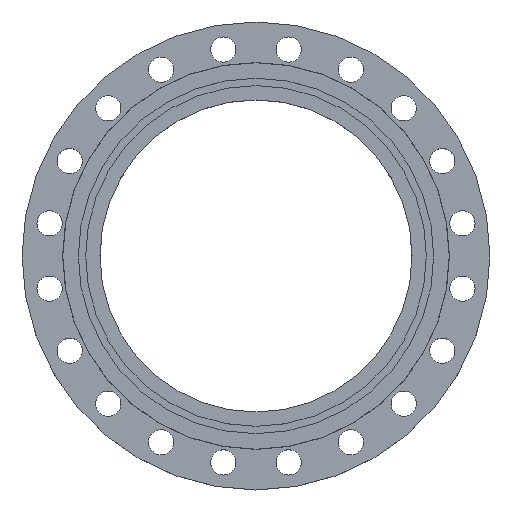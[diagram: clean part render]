
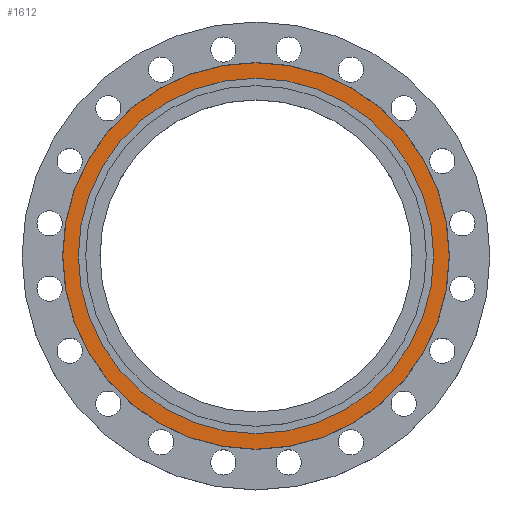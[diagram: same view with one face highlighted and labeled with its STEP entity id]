
A CAD part, top view. The second image highlights one B-rep face of the part: STEP entity #1612.
In plain terms, the highlighted planar face has unit normal (0, 0, 1).
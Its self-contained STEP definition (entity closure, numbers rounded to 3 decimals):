
#51 = AXIS2_PLACEMENT_3D ( 'NONE', #592, #591, #590 ) ;
#53 = CIRCLE ( 'NONE', #56, 367.5 ) ;
#56 = AXIS2_PLACEMENT_3D ( 'NONE', #588, #587, #586 ) ;
#68 = CARTESIAN_POINT ( 'NONE',  ( -367.5, 0., 0. ) ) ;
#82 = CARTESIAN_POINT ( 'NONE',  ( 367.5, 0., 0. ) ) ;
#138 = DIRECTION ( 'NONE',  ( -1., 0., 0. ) ) ;
#139 = DIRECTION ( 'NONE',  ( 0., 0., -1. ) ) ;
#140 = CARTESIAN_POINT ( 'NONE',  ( 0., 0., 0. ) ) ;
#149 = PLANE ( 'NONE',  #1849 ) ;
#150 = FACE_BOUND ( 'NONE', #1910, .T. ) ;
#152 = FACE_OUTER_BOUND ( 'NONE', #1837, .T. ) ;
#241 = CARTESIAN_POINT ( 'NONE',  ( -338., 0., 0. ) ) ;
#383 = CIRCLE ( 'NONE', #51, 338. ) ;
#552 = EDGE_CURVE ( 'NONE', #1727, #1958, #850, .T. ) ;
#586 = DIRECTION ( 'NONE',  ( -1., 0., 0. ) ) ;
#587 = DIRECTION ( 'NONE',  ( 0., 0., -1. ) ) ;
#588 = CARTESIAN_POINT ( 'NONE',  ( 0., 0., 0. ) ) ;
#590 = DIRECTION ( 'NONE',  ( -1., 0., 0. ) ) ;
#591 = DIRECTION ( 'NONE',  ( 0., 0., -1. ) ) ;
#592 = CARTESIAN_POINT ( 'NONE',  ( 0., 0., 0. ) ) ;
#692 = DIRECTION ( 'NONE',  ( 1., 0., 0. ) ) ;
#694 = DIRECTION ( 'NONE',  ( 0., 0., 1. ) ) ;
#696 = CARTESIAN_POINT ( 'NONE',  ( 0., 0., 0. ) ) ;
#766 = DIRECTION ( 'NONE',  ( -1., 0., 0. ) ) ;
#769 = DIRECTION ( 'NONE',  ( 0., 0., -1. ) ) ;
#770 = CARTESIAN_POINT ( 'NONE',  ( 0., 0., 0. ) ) ;
#845 = EDGE_CURVE ( 'NONE', #1775, #1850, #383, .T. ) ;
#850 = CIRCLE ( 'NONE', #1520, 367.5 ) ;
#857 = EDGE_CURVE ( 'NONE', #1958, #1727, #53, .T. ) ;
#1298 = ORIENTED_EDGE ( 'NONE', *, *, #1622, .T. ) ;
#1300 = ORIENTED_EDGE ( 'NONE', *, *, #845, .T. ) ;
#1302 = ORIENTED_EDGE ( 'NONE', *, *, #857, .F. ) ;
#1303 = ORIENTED_EDGE ( 'NONE', *, *, #552, .F. ) ;
#1520 = AXIS2_PLACEMENT_3D ( 'NONE', #770, #769, #766 ) ;
#1581 = CARTESIAN_POINT ( 'NONE',  ( 338., 0., 0. ) ) ;
#1612 = ADVANCED_FACE ( 'NONE', ( #152, #150 ), #149, .T. ) ;
#1622 = EDGE_CURVE ( 'NONE', #1850, #1775, #1874, .T. ) ;
#1727 = VERTEX_POINT ( 'NONE', #68 ) ;
#1775 = VERTEX_POINT ( 'NONE', #241 ) ;
#1837 = EDGE_LOOP ( 'NONE', ( #1303, #1302 ) ) ;
#1849 = AXIS2_PLACEMENT_3D ( 'NONE', #696, #694, #692 ) ;
#1850 = VERTEX_POINT ( 'NONE', #1581 ) ;
#1874 = CIRCLE ( 'NONE', #1880, 338. ) ;
#1880 = AXIS2_PLACEMENT_3D ( 'NONE', #140, #139, #138 ) ;
#1910 = EDGE_LOOP ( 'NONE', ( #1300, #1298 ) ) ;
#1958 = VERTEX_POINT ( 'NONE', #82 ) ;
